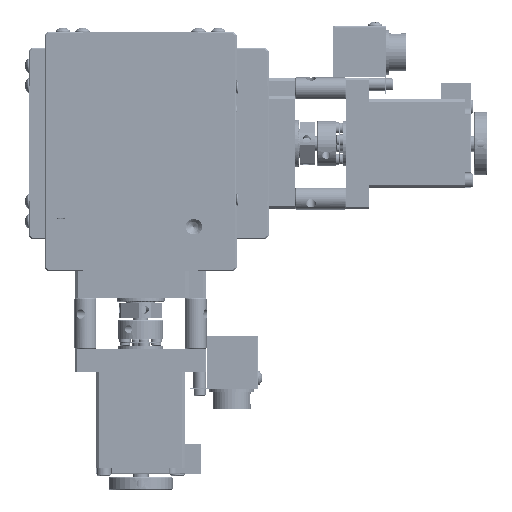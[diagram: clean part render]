
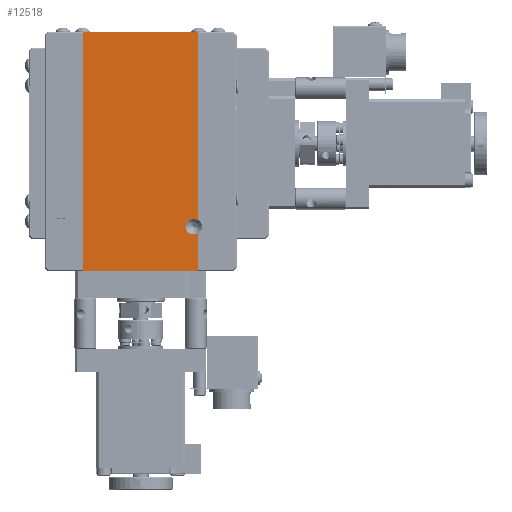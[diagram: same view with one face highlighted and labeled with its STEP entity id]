
A CAD part, front view. The second image highlights one B-rep face of the part: STEP entity #12518.
In plain terms, the highlighted planar face has unit normal (0, -1, 0).
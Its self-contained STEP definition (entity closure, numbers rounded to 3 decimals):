
#235 = DIRECTION ( 'NONE',  ( 0., 0., 1. ) ) ;
#1737 = DIRECTION ( 'NONE',  ( 0., 1., 0. ) ) ;
#1831 = DIRECTION ( 'NONE',  ( 0., 0., -1. ) ) ;
#2246 = EDGE_CURVE ( 'NONE', #29540, #37296, #17718, .T. ) ;
#2345 = DIRECTION ( 'NONE',  ( -1., 0., 0. ) ) ;
#3693 = ORIENTED_EDGE ( 'NONE', *, *, #32790, .T. ) ;
#3962 = EDGE_CURVE ( 'NONE', #37296, #21569, #15436, .T. ) ;
#4547 = ORIENTED_EDGE ( 'NONE', *, *, #57445, .T. ) ;
#6951 = DIRECTION ( 'NONE',  ( 0., 0., -1. ) ) ;
#7589 = CARTESIAN_POINT ( 'NONE',  ( 2.551, -11.301, 20.494 ) ) ;
#9112 = ORIENTED_EDGE ( 'NONE', *, *, #63826, .T. ) ;
#10686 = ORIENTED_EDGE ( 'NONE', *, *, #3962, .T. ) ;
#12518 = ADVANCED_FACE ( 'NONE', ( #53800 ), #64173, .T. ) ;
#15436 = LINE ( 'NONE', #51904, #52450 ) ;
#17017 = DIRECTION ( 'NONE',  ( 0., 1., 0. ) ) ;
#17718 = LINE ( 'NONE', #38895, #19500 ) ;
#18090 = AXIS2_PLACEMENT_3D ( 'NONE', #66375, #49056, #1831 ) ;
#18359 = VERTEX_POINT ( 'NONE', #7589 ) ;
#18535 = CARTESIAN_POINT ( 'NONE',  ( 2.551, -11.301, 15.694 ) ) ;
#19011 = ORIENTED_EDGE ( 'NONE', *, *, #31216, .T. ) ;
#19500 = VECTOR ( 'NONE', #59732, 1000. ) ;
#21030 = LINE ( 'NONE', #58169, #54382 ) ;
#21569 = VERTEX_POINT ( 'NONE', #37874 ) ;
#21585 = VERTEX_POINT ( 'NONE', #32679 ) ;
#25666 = ORIENTED_EDGE ( 'NONE', *, *, #46264, .T. ) ;
#28800 = CIRCLE ( 'NONE', #39848, 2.4 ) ;
#29540 = VERTEX_POINT ( 'NONE', #44360 ) ;
#31216 = EDGE_CURVE ( 'NONE', #21585, #51409, #28800, .T. ) ;
#31346 = CIRCLE ( 'NONE', #47922, 2.4 ) ;
#32679 = CARTESIAN_POINT ( 'NONE',  ( 4.051, -11.301, 16.221 ) ) ;
#32790 = EDGE_CURVE ( 'NONE', #33380, #29540, #33622, .T. ) ;
#33380 = VERTEX_POINT ( 'NONE', #39417 ) ;
#33622 = LINE ( 'NONE', #65522, #45109 ) ;
#33673 = CIRCLE ( 'NONE', #18090, 2.4 ) ;
#37296 = VERTEX_POINT ( 'NONE', #68243 ) ;
#37500 = DIRECTION ( 'NONE',  ( 0., -1., 0. ) ) ;
#37874 = CARTESIAN_POINT ( 'NONE',  ( 4.051, -11.301, 4.294 ) ) ;
#38881 = DIRECTION ( 'NONE',  ( 0., 0., -1. ) ) ;
#38895 = CARTESIAN_POINT ( 'NONE',  ( -31.949, -11.301, 4.094 ) ) ;
#39417 = CARTESIAN_POINT ( 'NONE',  ( 4.051, -11.301, 78.894 ) ) ;
#39848 = AXIS2_PLACEMENT_3D ( 'NONE', #64553, #17017, #38881 ) ;
#40954 = ORIENTED_EDGE ( 'NONE', *, *, #63024, .T. ) ;
#41253 = VECTOR ( 'NONE', #235, 1000. ) ;
#41571 = EDGE_LOOP ( 'NONE', ( #9112, #4547, #3693, #64647, #10686, #25666, #19011, #40954 ) ) ;
#42190 = DIRECTION ( 'NONE',  ( 0., 0., 1. ) ) ;
#43417 = CARTESIAN_POINT ( 'NONE',  ( 2.551, -11.301, 18.094 ) ) ;
#44360 = CARTESIAN_POINT ( 'NONE',  ( -31.949, -11.301, 78.894 ) ) ;
#45109 = VECTOR ( 'NONE', #2345, 1000. ) ;
#45557 = VERTEX_POINT ( 'NONE', #57350 ) ;
#46264 = EDGE_CURVE ( 'NONE', #21569, #21585, #62717, .T. ) ;
#47546 = CARTESIAN_POINT ( 'NONE',  ( -13.949, -11.301, 4.094 ) ) ;
#47922 = AXIS2_PLACEMENT_3D ( 'NONE', #43417, #1737, #6951 ) ;
#49056 = DIRECTION ( 'NONE',  ( 0., 1., 0. ) ) ;
#51409 = VERTEX_POINT ( 'NONE', #18535 ) ;
#51904 = CARTESIAN_POINT ( 'NONE',  ( -13.949, -11.301, 4.294 ) ) ;
#52450 = VECTOR ( 'NONE', #63328, 1000. ) ;
#53800 = FACE_OUTER_BOUND ( 'NONE', #41571, .T. ) ;
#54382 = VECTOR ( 'NONE', #42190, 1000. ) ;
#57350 = CARTESIAN_POINT ( 'NONE',  ( 4.051, -11.301, 19.968 ) ) ;
#57445 = EDGE_CURVE ( 'NONE', #45557, #33380, #21030, .T. ) ;
#58169 = CARTESIAN_POINT ( 'NONE',  ( 4.051, -11.301, 4.094 ) ) ;
#59732 = DIRECTION ( 'NONE',  ( 0., 0., -1. ) ) ;
#61685 = CARTESIAN_POINT ( 'NONE',  ( 4.051, -11.301, 4.094 ) ) ;
#62717 = LINE ( 'NONE', #61685, #41253 ) ;
#63024 = EDGE_CURVE ( 'NONE', #51409, #18359, #31346, .T. ) ;
#63328 = DIRECTION ( 'NONE',  ( 1., 0., 0. ) ) ;
#63826 = EDGE_CURVE ( 'NONE', #18359, #45557, #33673, .T. ) ;
#64173 = PLANE ( 'NONE',  #67409 ) ;
#64509 = DIRECTION ( 'NONE',  ( 0., 0., -1. ) ) ;
#64553 = CARTESIAN_POINT ( 'NONE',  ( 2.551, -11.301, 18.094 ) ) ;
#64647 = ORIENTED_EDGE ( 'NONE', *, *, #2246, .T. ) ;
#65522 = CARTESIAN_POINT ( 'NONE',  ( -13.949, -11.301, 78.894 ) ) ;
#66375 = CARTESIAN_POINT ( 'NONE',  ( 2.551, -11.301, 18.094 ) ) ;
#67409 = AXIS2_PLACEMENT_3D ( 'NONE', #47546, #37500, #64509 ) ;
#68243 = CARTESIAN_POINT ( 'NONE',  ( -31.949, -11.301, 4.294 ) ) ;
